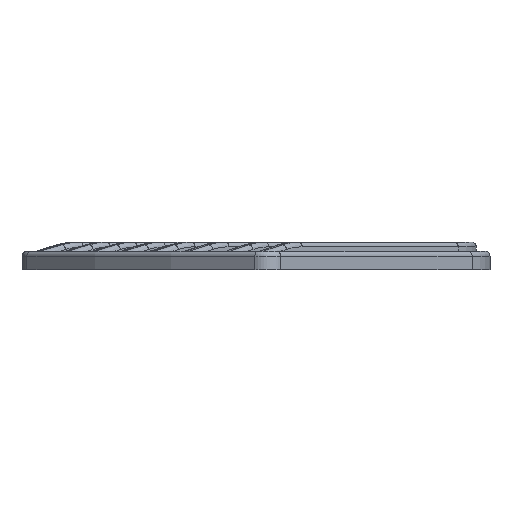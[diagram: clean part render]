
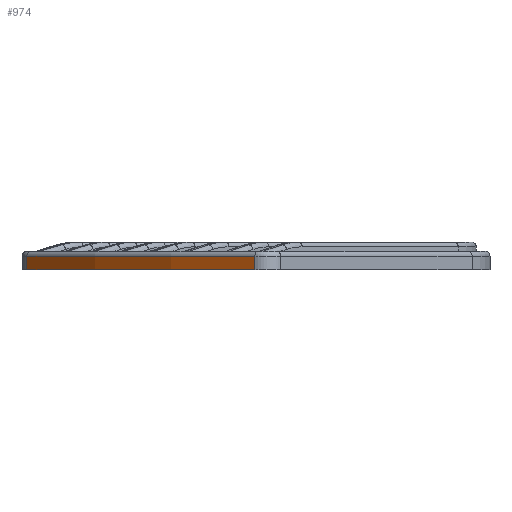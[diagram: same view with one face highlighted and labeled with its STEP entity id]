
A CAD part, front view. The second image highlights one B-rep face of the part: STEP entity #974.
In plain terms, the highlighted cylindrical face has radius 105.89 mm (diameter 211.78 mm), a partial arc.
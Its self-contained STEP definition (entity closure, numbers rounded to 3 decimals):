
#242=CYLINDRICAL_SURFACE('',#5244,105.89);
#371=FACE_OUTER_BOUND('',#1775,.T.);
#974=ADVANCED_FACE('',(#371),#242,.T.);
#1415=LINE('',#8790,#1590);
#1416=LINE('',#8794,#1591);
#1590=VECTOR('',#5932,1.);
#1591=VECTOR('',#5935,1.);
#1775=EDGE_LOOP('',(#2338,#2339,#2340,#2341));
#2338=ORIENTED_EDGE('',*,*,#4313,.T.);
#2339=ORIENTED_EDGE('',*,*,#4314,.T.);
#2340=ORIENTED_EDGE('',*,*,#4315,.T.);
#2341=ORIENTED_EDGE('',*,*,#4087,.T.);
#3621=VERTEX_POINT('',#6867);
#3622=VERTEX_POINT('',#6869);
#3829=VERTEX_POINT('',#8791);
#3830=VERTEX_POINT('',#8793);
#4087=EDGE_CURVE('',#3622,#3621,#4848,.T.);
#4313=EDGE_CURVE('',#3621,#3829,#1415,.T.);
#4314=EDGE_CURVE('',#3829,#3830,#4923,.T.);
#4315=EDGE_CURVE('',#3830,#3622,#1416,.T.);
#4848=CIRCLE('',#5149,105.89);
#4923=CIRCLE('',#5243,105.89);
#5149=AXIS2_PLACEMENT_3D('',#6868,#5671,#5672);
#5243=AXIS2_PLACEMENT_3D('',#8792,#5933,#5934);
#5244=AXIS2_PLACEMENT_3D('',#8795,#5936,#5937);
#5671=DIRECTION('',(0.,0.,1.));
#5672=DIRECTION('',(-1.,0.,0.));
#5932=DIRECTION('',(0.,0.,1.));
#5933=DIRECTION('',(0.,0.,-1.));
#5934=DIRECTION('',(1.,0.,0.));
#5935=DIRECTION('',(0.,0.,-1.));
#5936=DIRECTION('',(0.,0.,-1.));
#5937=DIRECTION('',(-1.,0.,0.));
#6867=CARTESIAN_POINT('',(20.894,-18.522,38.));
#6868=CARTESIAN_POINT('',(81.851,68.063,38.));
#6869=CARTESIAN_POINT('',(-3.742,5.721,38.));
#8790=CARTESIAN_POINT('',(20.894,-18.522,40.));
#8791=CARTESIAN_POINT('',(20.894,-18.522,39.5));
#8792=CARTESIAN_POINT('',(81.851,68.063,39.5));
#8793=CARTESIAN_POINT('',(-3.742,5.721,39.5));
#8794=CARTESIAN_POINT('',(-3.742,5.721,40.));
#8795=CARTESIAN_POINT('',(81.851,68.063,40.));
